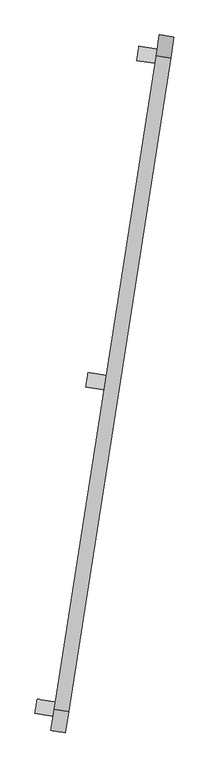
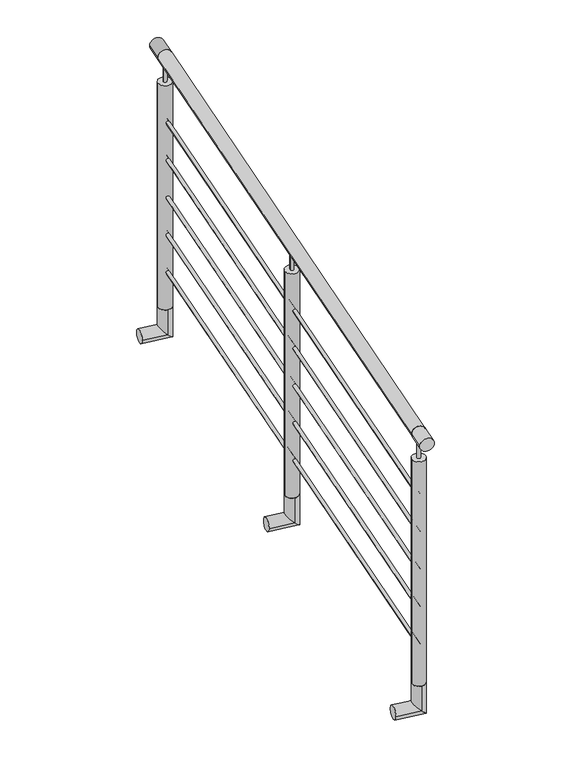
"""IFC4 building model written with IfcOpenShell, lengths in millimetres: railing geometry, Barandal acero inox - sobre ventana."""

from ifc_helpers import new_model, si_unit, point, frame, frame_2d, origin, origin_2d, place, context, project, spatial, circle_curve, ellipse_curve, trimmed, segment, composite_curve, outline, extrude, source, transform, mapped, element, save
from ifc_brep_helpers import plane_surface, cylinder_surface, advanced_brep


def railing_bf72e0a7(model_context):
    return source(origin(), model_context, "Body", "SolidModel", [
        extrude(outline(composite_curve([segment(trimmed(circle_curve(origin_2d(), 25.4), [point((25.4, 0.0))], [point((-25.4, 0.0))], False, "CARTESIAN"), True, "CONTINUOUS"), segment(trimmed(circle_curve(origin_2d(), 25.4), [point((-25.4, 0.0))], [point((25.4, 0.0))], False, "CARTESIAN"), True, "CONTINUOUS")], self_intersect=False)), frame((-21663.6078131, -59760.7164181, 13800.0), z_axis=(0.1540098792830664, 0.9880693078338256, 0.0), x_axis=(0.9880693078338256, -0.1540098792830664, 0.0)), (0.0, 0.0, 1.0), 2310.0000597),
        extrude(outline(composite_curve([segment(trimmed(circle_curve(origin_2d(), 6.35), [point((6.35, 0.0))], [point((-6.35, 0.0))], False, "CARTESIAN"), True, "CONTINUOUS"), segment(trimmed(circle_curve(origin_2d(), 6.35), [point((-6.35, 0.0))], [point((6.35, 0.0))], False, "CARTESIAN"), True, "CONTINUOUS")], self_intersect=False)), frame((-21663.6078131, -59760.7164181, 13550.0), z_axis=(0.1540098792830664, 0.9880693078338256, 0.0), x_axis=(0.9880693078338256, -0.1540098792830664, 0.0)), (0.0, 0.0, 1.0), 2310.0000597),
        extrude(outline(composite_curve([segment(trimmed(circle_curve(origin_2d(), 6.35), [point((6.35, 0.0))], [point((-6.35, 0.0))], False, "CARTESIAN"), True, "CONTINUOUS"), segment(trimmed(circle_curve(origin_2d(), 6.35), [point((-6.35, 0.0))], [point((6.35, 0.0))], False, "CARTESIAN"), True, "CONTINUOUS")], self_intersect=False)), frame((-21663.6078131, -59760.7164181, 13400.0), z_axis=(0.1540098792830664, 0.9880693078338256, 0.0), x_axis=(0.9880693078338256, -0.1540098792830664, 0.0)), (0.0, 0.0, 1.0), 2310.0000597),
        extrude(outline(composite_curve([segment(trimmed(circle_curve(origin_2d(), 6.35), [point((6.35, 0.0))], [point((-6.35, 0.0))], False, "CARTESIAN"), True, "CONTINUOUS"), segment(trimmed(circle_curve(origin_2d(), 6.35), [point((-6.35, 0.0))], [point((6.35, 0.0))], False, "CARTESIAN"), True, "CONTINUOUS")], self_intersect=False)), frame((-21663.6078131, -59760.7164181, 13250.0), z_axis=(0.1540098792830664, 0.9880693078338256, 0.0), x_axis=(0.9880693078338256, -0.1540098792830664, 0.0)), (0.0, 0.0, 1.0), 2310.0000597),
        extrude(outline(composite_curve([segment(trimmed(circle_curve(origin_2d(), 6.35), [point((6.35, 0.0))], [point((-6.35, 0.0))], False, "CARTESIAN"), True, "CONTINUOUS"), segment(trimmed(circle_curve(origin_2d(), 6.35), [point((-6.35, 0.0))], [point((6.35, 0.0))], False, "CARTESIAN"), True, "CONTINUOUS")], self_intersect=False)), frame((-21663.6078131, -59760.7164181, 13100.0), z_axis=(0.1540098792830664, 0.9880693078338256, 0.0), x_axis=(0.9880693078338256, -0.1540098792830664, 0.0)), (0.0, 0.0, 1.0), 2310.0000597),
        extrude(outline(composite_curve([segment(trimmed(circle_curve(origin_2d(), 6.35), [point((6.35, 0.0))], [point((-6.35, 0.0))], False, "CARTESIAN"), True, "CONTINUOUS"), segment(trimmed(circle_curve(origin_2d(), 6.35), [point((-6.35, 0.0))], [point((6.35, 0.0))], False, "CARTESIAN"), True, "CONTINUOUS")], self_intersect=False)), frame((-21663.6078131, -59760.7164181, 12950.0), z_axis=(0.1540098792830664, 0.9880693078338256, 0.0), x_axis=(0.9880693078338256, -0.1540098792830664, 0.0)), (0.0, 0.0, 1.0), 2310.0000597),
        advanced_brep(
        [(-21489.6382489, -58644.5932985, 12800.0), (-21481.814547, -58594.3993776, 12800.0), (-21481.814547, -58594.3993776, 12700.0), (-21489.6382489, -58644.5932985, 12700.0), (-21578.5644866, -58630.7324093, 12700.0), (-21570.7407847, -58580.5384885, 12700.0)],
        [
            (0, 1, circle_curve(frame((-21485.7263979, -58619.4963381, 12800.0), z_axis=(0.0, 0.0, 1.0), x_axis=(0.1540098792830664, 0.9880693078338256, 0.0)), 25.4)),
            (1, 0, circle_curve(frame((-21485.7263979, -58619.4963381, 12800.0), z_axis=(0.0, 0.0, 1.0), x_axis=(0.1540098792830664, 0.9880693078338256, 0.0)), 25.4)),
            (1, 2),
            (2, 3, ellipse_curve(frame((-21485.7263979, -58619.4963381, 12700.0), z_axis=(0.6986705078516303, -0.10890143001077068, 0.7071067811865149), x_axis=(-0.6986705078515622, 0.10890143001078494, 0.7071067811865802)), 35.9210245, 25.4)),
            (3, 0),
            (3, 2, ellipse_curve(frame((-21485.7263979, -58619.4963381, 12700.0), z_axis=(0.6986705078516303, -0.10890143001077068, 0.7071067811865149), x_axis=(-0.6986705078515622, 0.10890143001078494, 0.7071067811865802)), 35.9210245, 25.4)),
            (4, 5, circle_curve(frame((-21574.6526356, -58605.6354489, 12700.0), z_axis=(-0.9880693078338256, 0.1540098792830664, 0.0), x_axis=(0.1540098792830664, 0.9880693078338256, 0.0)), 25.4)),
            (5, 4, circle_curve(frame((-21574.6526356, -58605.6354489, 12700.0), z_axis=(-0.9880693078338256, 0.1540098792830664, 0.0), x_axis=(0.1540098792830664, 0.9880693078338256, 0.0)), 25.4)),
            (2, 5),
            (4, 3),
        ],
        [
            plane_surface(frame((-21485.7263979, -58619.4963381, 12800.0), z_axis=(0.0, 0.0, 1.0), x_axis=(0.1540098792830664, 0.9880693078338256, 0.0))),
            cylinder_surface(frame((-21485.7263979, -58619.4963381, 12800.0), z_axis=(0.0, 0.0, 1.0), x_axis=(0.1540098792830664, 0.9880693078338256, 0.0)), 25.4),
            plane_surface(frame((-21574.6526356, -58605.6354489, 12700.0), z_axis=(-0.9880693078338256, 0.1540098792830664, 0.0), x_axis=(0.1540098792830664, 0.9880693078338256, 0.0))),
            cylinder_surface(frame((-21485.7263979, -58619.4963381, 12700.0), z_axis=(0.9880693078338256, -0.1540098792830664, 0.0), x_axis=(0.1540098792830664, 0.9880693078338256, 0.0)), 25.4),
        ],
        [
            (0, [[1, 2]]),
            (1, [[3, 4, 5, -2]]),
            (1, [[-5, 6, -3, -1]]),
            (2, [[7, 8]]),
            (3, [[9, -7, 10, -4]]),
            (3, [[-10, -8, -9, -6]]),
        ],
    ),
        extrude(outline(composite_curve([segment(trimmed(circle_curve(frame_2d((-21485.7263979, -58619.4963381)), 6.35), [point((-21492.000638, -58618.5183753))], [point((-21479.4521578, -58620.4743008))], False, "CARTESIAN"), True, "CONTINUOUS"), segment(trimmed(circle_curve(frame_2d((-21485.7263979, -58619.4963381)), 6.35), [point((-21479.4521578, -58620.4743008))], [point((-21492.000638, -58618.5183753))], False, "CARTESIAN"), True, "CONTINUOUS")], self_intersect=False)), frame((0.0, 0.0, 13699.6), z_axis=(0.0, 0.0, 1.0), x_axis=(1.0, 0.0, 0.0)), (0.0, 0.0, 1.0), 75.0),
        extrude(outline(composite_curve([segment(trimmed(circle_curve(frame_2d((-21485.7263979, -58619.4963381)), 25.4), [point((-21510.8233584, -58615.5844871))], [point((-21460.6294375, -58623.408189))], False, "CARTESIAN"), True, "CONTINUOUS"), segment(trimmed(circle_curve(frame_2d((-21485.7263979, -58619.4963381)), 25.4), [point((-21460.6294375, -58623.408189))], [point((-21510.8233584, -58615.5844871))], False, "CARTESIAN"), True, "CONTINUOUS")], self_intersect=False)), frame((0.0, 0.0, 12800.0), z_axis=(0.0, 0.0, 1.0), x_axis=(1.0, 0.0, 0.0)), (0.0, 0.0, 1.0), 899.6),
        advanced_brep(
        [(-21311.7568337, -57503.3732184, 12800.0), (-21303.9331318, -57453.1792976, 12800.0), (-21303.9331318, -57453.1792976, 12700.0), (-21311.7568337, -57503.3732184, 12700.0), (-21400.6830714, -57489.5123293, 12700.0), (-21392.8593695, -57439.3184085, 12700.0)],
        [
            (0, 1, circle_curve(frame((-21307.8449828, -57478.276258, 12800.0), z_axis=(0.0, 0.0, 1.0), x_axis=(0.1540098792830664, 0.9880693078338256, 0.0)), 25.4)),
            (1, 0, circle_curve(frame((-21307.8449828, -57478.276258, 12800.0), z_axis=(0.0, 0.0, 1.0), x_axis=(0.1540098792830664, 0.9880693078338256, 0.0)), 25.4)),
            (1, 2),
            (2, 3, ellipse_curve(frame((-21307.8449828, -57478.276258, 12700.0), z_axis=(0.6986705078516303, -0.10890143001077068, 0.7071067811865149), x_axis=(-0.6986705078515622, 0.10890143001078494, 0.7071067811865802)), 35.9210245, 25.4)),
            (3, 0),
            (3, 2, ellipse_curve(frame((-21307.8449828, -57478.276258, 12700.0), z_axis=(0.6986705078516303, -0.10890143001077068, 0.7071067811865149), x_axis=(-0.6986705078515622, 0.10890143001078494, 0.7071067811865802)), 35.9210245, 25.4)),
            (4, 5, circle_curve(frame((-21396.7712205, -57464.4153689, 12700.0), z_axis=(-0.9880693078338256, 0.1540098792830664, 0.0), x_axis=(0.1540098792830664, 0.9880693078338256, 0.0)), 25.4)),
            (5, 4, circle_curve(frame((-21396.7712205, -57464.4153689, 12700.0), z_axis=(-0.9880693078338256, 0.1540098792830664, 0.0), x_axis=(0.1540098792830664, 0.9880693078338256, 0.0)), 25.4)),
            (2, 5),
            (4, 3),
        ],
        [
            plane_surface(frame((-21307.8449828, -57478.276258, 12800.0), z_axis=(0.0, 0.0, 1.0), x_axis=(0.1540098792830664, 0.9880693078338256, 0.0))),
            cylinder_surface(frame((-21307.8449828, -57478.276258, 12800.0), z_axis=(0.0, 0.0, 1.0), x_axis=(0.1540098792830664, 0.9880693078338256, 0.0)), 25.4),
            plane_surface(frame((-21396.7712205, -57464.4153689, 12700.0), z_axis=(-0.9880693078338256, 0.1540098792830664, 0.0), x_axis=(0.1540098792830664, 0.9880693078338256, 0.0))),
            cylinder_surface(frame((-21307.8449828, -57478.276258, 12700.0), z_axis=(0.9880693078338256, -0.1540098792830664, 0.0), x_axis=(0.1540098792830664, 0.9880693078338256, 0.0)), 25.4),
        ],
        [
            (0, [[1, 2]]),
            (1, [[3, 4, 5, -2]]),
            (1, [[-5, 6, -3, -1]]),
            (2, [[7, 8]]),
            (3, [[9, -7, 10, -4]]),
            (3, [[-10, -8, -9, -6]]),
        ],
    ),
        extrude(outline(composite_curve([segment(trimmed(circle_curve(frame_2d((0.0, 25.4)), 25.4), [point((0.0, 50.8))], [point((0.0, 0.0))], False, "CARTESIAN"), True, "CONTINUOUS"), segment(trimmed(circle_curve(frame_2d((0.0, 25.4)), 25.4), [point((0.0, 0.0))], [point((0.0, 50.8))], False, "CARTESIAN"), True, "CONTINUOUS")], self_intersect=False)), frame((-21282.7480224, -57482.188109, 13800.0), z_axis=(0.1540098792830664, 0.9880693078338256, 0.0), x_axis=(0.0, 0.0, -1.0)), (0.0, 0.0, 1.0), 75.0),
        extrude(outline(composite_curve([segment(trimmed(circle_curve(frame_2d((-21307.8449828, -57478.276258)), 6.35), [point((-21314.1192229, -57477.2982953))], [point((-21301.5707427, -57479.2542208))], False, "CARTESIAN"), True, "CONTINUOUS"), segment(trimmed(circle_curve(frame_2d((-21307.8449828, -57478.276258)), 6.35), [point((-21301.5707427, -57479.2542208))], [point((-21314.1192229, -57477.2982953))], False, "CARTESIAN"), True, "CONTINUOUS")], self_intersect=False)), frame((0.0, 0.0, 13699.6), z_axis=(0.0, 0.0, 1.0), x_axis=(1.0, 0.0, 0.0)), (0.0, 0.0, 1.0), 75.0),
        extrude(outline(composite_curve([segment(trimmed(circle_curve(frame_2d((-21307.8449828, -57478.276258)), 25.4), [point((-21332.9419432, -57474.3644071))], [point((-21282.7480224, -57482.188109))], False, "CARTESIAN"), True, "CONTINUOUS"), segment(trimmed(circle_curve(frame_2d((-21307.8449828, -57478.276258)), 25.4), [point((-21282.7480224, -57482.188109))], [point((-21332.9419432, -57474.3644071))], False, "CARTESIAN"), True, "CONTINUOUS")], self_intersect=False)), frame((0.0, 0.0, 12800.0), z_axis=(0.0, 0.0, 1.0), x_axis=(1.0, 0.0, 0.0)), (0.0, 0.0, 1.0), 899.6),
        advanced_brep(
        [(-21667.519664, -59785.8133785, 12800.0), (-21659.6959622, -59735.6194577, 12800.0), (-21659.6959622, -59735.6194577, 12700.0), (-21667.519664, -59785.8133785, 12700.0), (-21756.4459017, -59771.9524894, 12700.0), (-21748.6221999, -59721.7585685, 12700.0)],
        [
            (0, 1, circle_curve(frame((-21663.6078131, -59760.7164181, 12800.0), z_axis=(0.0, 0.0, 1.0), x_axis=(0.1540098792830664, 0.9880693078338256, 0.0)), 25.4)),
            (1, 0, circle_curve(frame((-21663.6078131, -59760.7164181, 12800.0), z_axis=(0.0, 0.0, 1.0), x_axis=(0.1540098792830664, 0.9880693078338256, 0.0)), 25.4)),
            (1, 2),
            (2, 3, ellipse_curve(frame((-21663.6078131, -59760.7164181, 12700.0), z_axis=(0.6986705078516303, -0.10890143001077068, 0.7071067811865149), x_axis=(-0.6986705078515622, 0.10890143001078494, 0.7071067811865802)), 35.9210245, 25.4)),
            (3, 0),
            (3, 2, ellipse_curve(frame((-21663.6078131, -59760.7164181, 12700.0), z_axis=(0.6986705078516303, -0.10890143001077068, 0.7071067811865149), x_axis=(-0.6986705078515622, 0.10890143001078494, 0.7071067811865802)), 35.9210245, 25.4)),
            (4, 5, circle_curve(frame((-21752.5340508, -59746.8555289, 12700.0), z_axis=(-0.9880693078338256, 0.1540098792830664, 0.0), x_axis=(0.1540098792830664, 0.9880693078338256, 0.0)), 25.4)),
            (5, 4, circle_curve(frame((-21752.5340508, -59746.8555289, 12700.0), z_axis=(-0.9880693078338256, 0.1540098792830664, 0.0), x_axis=(0.1540098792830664, 0.9880693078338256, 0.0)), 25.4)),
            (2, 5),
            (4, 3),
        ],
        [
            plane_surface(frame((-21663.6078131, -59760.7164181, 12800.0), z_axis=(0.0, 0.0, 1.0), x_axis=(0.1540098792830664, 0.9880693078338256, 0.0))),
            cylinder_surface(frame((-21663.6078131, -59760.7164181, 12800.0), z_axis=(0.0, 0.0, 1.0), x_axis=(0.1540098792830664, 0.9880693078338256, 0.0)), 25.4),
            plane_surface(frame((-21752.5340508, -59746.8555289, 12700.0), z_axis=(-0.9880693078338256, 0.1540098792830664, 0.0), x_axis=(0.1540098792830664, 0.9880693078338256, 0.0))),
            cylinder_surface(frame((-21663.6078131, -59760.7164181, 12700.0), z_axis=(0.9880693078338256, -0.1540098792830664, 0.0), x_axis=(0.1540098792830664, 0.9880693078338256, 0.0)), 25.4),
        ],
        [
            (0, [[1, 2]]),
            (1, [[3, 4, 5, -2]]),
            (1, [[-5, 6, -3, -1]]),
            (2, [[7, 8]]),
            (3, [[9, -7, 10, -4]]),
            (3, [[-10, -8, -9, -6]]),
        ],
    ),
        extrude(outline(composite_curve([segment(trimmed(circle_curve(frame_2d((0.0, 25.4000001)), 25.4), [point((0.0, 50.8000001))], [point((0.0, 0.0))], False, "CARTESIAN"), True, "CONTINUOUS"), segment(trimmed(circle_curve(frame_2d((0.0, 25.4000001)), 25.4), [point((0.0, 0.0))], [point((0.0, 50.8000001))], False, "CARTESIAN"), True, "CONTINUOUS")], self_intersect=False)), frame((-21650.0615936, -59838.7334671, 13800.0), z_axis=(0.1540098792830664, 0.9880693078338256, 0.0), x_axis=(0.0, 0.0, -1.0)), (0.0, 0.0, 1.0), 75.0),
        extrude(outline(composite_curve([segment(trimmed(circle_curve(frame_2d((-21663.6078131, -59760.7164181)), 6.35), [point((-21669.8820532, -59759.7384553))], [point((-21657.333573, -59761.6943808))], False, "CARTESIAN"), True, "CONTINUOUS"), segment(trimmed(circle_curve(frame_2d((-21663.6078131, -59760.7164181)), 6.35), [point((-21657.333573, -59761.6943808))], [point((-21669.8820532, -59759.7384553))], False, "CARTESIAN"), True, "CONTINUOUS")], self_intersect=False)), frame((0.0, 0.0, 13699.6), z_axis=(0.0, 0.0, 1.0), x_axis=(1.0, 0.0, 0.0)), (0.0, 0.0, 1.0), 75.0),
        extrude(outline(composite_curve([segment(trimmed(circle_curve(frame_2d((-21663.6078131, -59760.7164181)), 25.4), [point((-21688.7047735, -59756.8045671))], [point((-21638.5108527, -59764.628269))], False, "CARTESIAN"), True, "CONTINUOUS"), segment(trimmed(circle_curve(frame_2d((-21663.6078131, -59760.7164181)), 25.4), [point((-21638.5108527, -59764.628269))], [point((-21688.7047735, -59756.8045671))], False, "CARTESIAN"), True, "CONTINUOUS")], self_intersect=False)), frame((0.0, 0.0, 12800.0), z_axis=(0.0, 0.0, 1.0), x_axis=(1.0, 0.0, 0.0)), (0.0, 0.0, 1.0), 899.6),
    ])


if __name__ == "__main__":
    model = new_model("IFC4")
    model_context = context("Model", 3, world=origin())
    ifc_project = project(units=[si_unit("LENGTHUNIT", "METRE", prefix="MILLI")], contexts=[model_context])
    site = spatial("IfcSite", under=ifc_project)
    building = spatial("IfcBuilding", under=site)
    placement = place(None, origin())
    railing_shape = railing_bf72e0a7(model_context)
    element("IfcRailing", 1, ObjectType="Barandal acero inox - sobre ventana", at=placement, inside=building, context=model_context, shape_type="MappedRepresentation", body=[
        mapped(railing_shape, transform((0.0, 0.0, 0.0), x_axis=(1.0, 0.0, 0.0), y_axis=(0.0, 1.0, 0.0), z_axis=(0.0, 0.0, 1.0))),
    ])
    save(model, "model.ifc")
